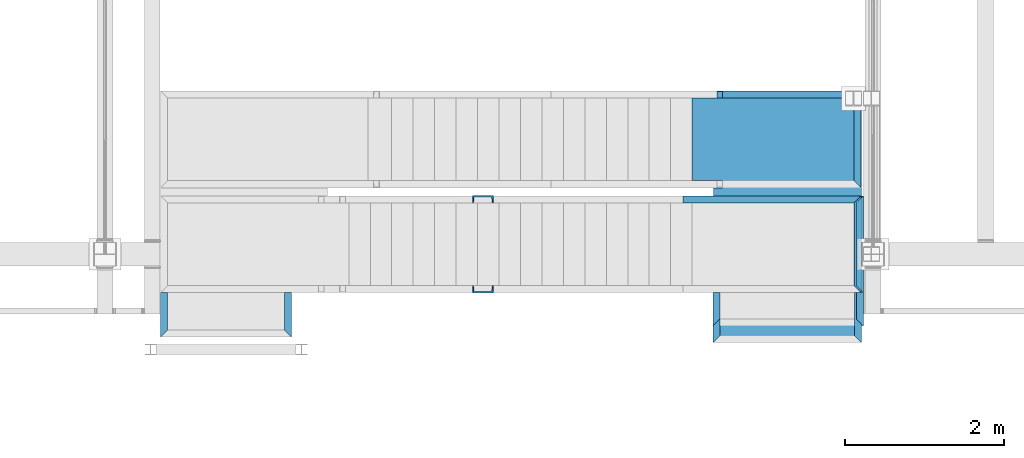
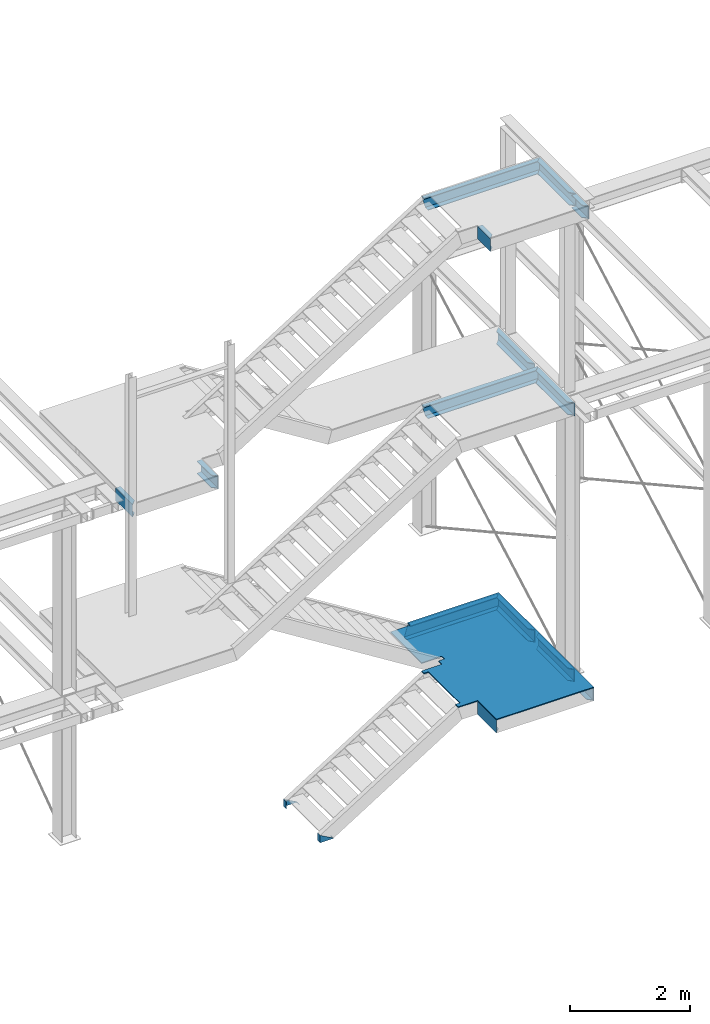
# One storey, part 24 of 24: 17 stairs.
"""IFC2X3 building model written with IfcOpenShell, lengths in metres."""

from ifc_helpers import new_model, entity, si_unit, converted_unit, derived_unit, frame, origin, place, context, subcontext, project, spatial, faceted_brep, material, element, save


model = new_model("IFC2X3")

# Units and contexts
model_context = context("Model", 3, precision=1e-05, world=origin())
body_context = subcontext(model_context, "Body", "Model", "MODEL_VIEW")
ifc_project = project(units=[si_unit("LENGTHUNIT", "METRE"), si_unit("AREAUNIT", "SQUARE_METRE"), si_unit("VOLUMEUNIT", "CUBIC_METRE"), si_unit("MASSUNIT", "GRAM", prefix="KILO"), converted_unit("PLANEANGLEUNIT", "DEGREE", entity("IfcPlaneAngleMeasure", 0.0174532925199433), si_unit("PLANEANGLEUNIT", "RADIAN"), dimensions=[0, 0, 0, 0, 0, 0, 0]), derived_unit("THERMALTRANSMITTANCEUNIT", [(si_unit("POWERUNIT", "WATT"), 1), (si_unit("THERMODYNAMICTEMPERATUREUNIT", "KELVIN"), -1), (si_unit("LENGTHUNIT", "METRE"), -2)]), derived_unit("VOLUMETRICFLOWRATEUNIT", [(si_unit("LENGTHUNIT", "METRE"), 3), (converted_unit("TIMEUNIT", "hour", entity("IfcTimeMeasure", 3600.0), si_unit("TIMEUNIT", "SECOND"), dimensions=[0, 0, 1, 0, 0, 0, 0]), -1), (si_unit("LENGTHUNIT", "METRE"), -1)])], contexts=[model_context])

# Site, building, storey
site_placement = place(None, origin())
site = spatial("IfcSite", under=ifc_project, at=site_placement, Name="TWP_Speiseverteilzentrum SBW VZ II", CompositionType="ELEMENT")
building_placement = place(site_placement, origin())
building = spatial("IfcBuilding", under=site, at=building_placement, Name="Speiseverteilzentrum SBW VZ II", CompositionType="ELEMENT")
storey_placement = place(building_placement, frame((0.0, 0.0, 0.6957)))
storey = spatial("IfcBuildingStorey", under=building, at=storey_placement, Name="EG_Technik_FFB", CompositionType="ELEMENT", Elevation=0.6957)

# Stairs
ifc_material_1 = material(Name="Stahl")
stair_1_placement = place(storey_placement, frame((67.6487049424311, 86.3610000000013, 0.751093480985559)))
element("IfcStair", 1, at=stair_1_placement, inside=storey, material=ifc_material_1, Name="Stahltreppe", ShapeType="NOTDEFINED", context=body_context, shape_type="Brep", body=[
    faceted_brep([(0.09, 0.0899999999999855, 0.0), (0.0, 0.0, 0.0), (0.0, 0.0, 0.26), (0.09, 0.0899999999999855, 0.26), (0.0899981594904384, 0.0899981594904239, 0.249199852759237), (0.01, 0.00999999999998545, 0.242798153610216), (0.010001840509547, 0.0100018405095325, 0.0171998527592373), (0.09, 0.0899999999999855, 0.0107981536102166), (0.09, 0.628999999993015, 0.0107981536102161), (0.010001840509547, 0.628999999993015, 0.0171998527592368), (0.01, 0.628999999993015, 0.242798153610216), (0.0899981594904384, 0.628999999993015, 0.249199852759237), (0.09, 0.628999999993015, 0.26), (0.0, 0.628999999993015, 0.26), (0.0, 0.628999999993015, 0.0), (0.09, 0.628999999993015, 0.0)], [[[0, 1, 2, 3, 4, 5, 6, 7]], [[8, 9, 10, 11, 12, 13, 14, 15]], [[7, 8, 15, 0]], [[0, 15, 14, 1]], [[2, 1, 14, 13]], [[2, 13, 12, 3]], [[3, 12, 11, 4]], [[4, 11, 10, 5]], [[5, 10, 9, 6]], [[6, 9, 8, 7]]], orient=[[False], [False], [False], [False], [False], [False], [False], [False], [False], [False]]),
])
ifc_material_2 = material(Name="Stahl")
stair_2_placement = place(storey_placement, frame((69.4287049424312, 86.3610000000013, 0.751093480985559)))
element("IfcStair", 2, at=stair_2_placement, inside=storey, material=ifc_material_2, Name="Stahltreppe", ShapeType="NOTDEFINED", context=body_context, shape_type="Brep", body=[
    faceted_brep([(0.0, 0.0899999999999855, 0.0), (0.0, 0.0899999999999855, 0.0107981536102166), (0.079998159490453, 0.0100018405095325, 0.0171998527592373), (0.08, 0.00999999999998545, 0.242798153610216), (1.84050956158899e-06, 0.0899981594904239, 0.249199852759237), (0.0, 0.0899999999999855, 0.26), (0.09, 0.0, 0.26), (0.09, 0.0, 0.0), (0.0, 0.628999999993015, 0.0107981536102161), (0.0, 0.628999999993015, 0.0), (0.09, 0.628999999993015, 0.0), (0.09, 0.628999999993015, 0.26), (0.0, 0.628999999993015, 0.26), (1.84050956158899e-06, 0.628999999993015, 0.249199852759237), (0.08, 0.628999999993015, 0.242798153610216), (0.079998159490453, 0.628999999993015, 0.0171998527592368)], [[[0, 1, 2, 3, 4, 5, 6, 7]], [[8, 9, 10, 11, 12, 13, 14, 15]], [[1, 0, 9, 8]], [[0, 7, 10, 9]], [[6, 11, 10, 7]], [[6, 5, 12, 11]], [[5, 4, 13, 12]], [[4, 3, 14, 13]], [[3, 2, 15, 14]], [[2, 1, 8, 15]]], orient=[[False], [False], [False], [False], [False], [False], [False], [False], [False], [False]]),
])
ifc_material_3 = material(Name="Stahl")
stair_3_placement = place(storey_placement, frame((67.698288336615, 89.4399999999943, 0.751093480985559)))
element("IfcStair", 3, at=stair_3_placement, inside=storey, material=ifc_material_3, Name="Stahltreppe", ShapeType="NOTDEFINED", context=body_context, shape_type="Brep", body=[
    faceted_brep([(1.73041660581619, 0.0, 0.0), (1.73041660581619, 0.0, 0.0107981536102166), (1.81041476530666, 0.079998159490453, 0.0171998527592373), (1.81041660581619, 0.08, 0.242798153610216), (1.73041844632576, 1.84050956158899e-06, 0.249199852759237), (1.73041660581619, 0.0, 0.26), (1.82041660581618, 0.09, 0.26), (1.82041660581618, 0.09, 0.0), (0.0, 0.0, 0.0), (0.00310374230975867, 0.0, 0.0107981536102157), (0.0, 0.09, 0.0), (0.0747324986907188, 0.09, 0.26), (0.0747324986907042, 0.0, 0.26), (0.0716281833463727, 1.84050956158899e-06, 0.249199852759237), (0.0697881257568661, 0.08, 0.242798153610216), (0.00494379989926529, 0.079998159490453, 0.0171998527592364)], [[[0, 1, 2, 3, 4, 5, 6, 7]], [[0, 8, 9, 1]], [[7, 10, 8, 0]], [[10, 7, 6, 11]], [[5, 12, 11, 6]], [[4, 13, 12, 5]], [[3, 14, 13, 4]], [[2, 15, 14, 3]], [[1, 9, 15, 2]], [[8, 10, 11, 12, 13, 14, 15, 9]]], orient=[[False], [False], [False], [False], [False], [False], [False], [False], [False], [False]]),
])
ifc_material_4 = material(Name="Stahl")
stair_4_placement = place(storey_placement, frame((69.4287049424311, 88.3099999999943, 0.751093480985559)))
element("IfcStair", 4, at=stair_4_placement, inside=storey, material=ifc_material_4, Name="Stahltreppe", ShapeType="NOTDEFINED", context=body_context, shape_type="Brep", body=[
    faceted_brep([(0.0900000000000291, 0.0, 0.26), (0.0900000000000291, 0.0, 0.0), (0.0, 0.09, 0.0), (0.0, 0.09, 0.0107981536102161), (0.0799981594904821, 0.0100018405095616, 0.0171998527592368), (0.0800000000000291, 0.01, 0.242798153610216), (1.84050959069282e-06, 0.0899981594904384, 0.249199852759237), (0.0, 0.09, 0.26), (0.0, 1.12999999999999, 0.0107981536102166), (0.0799981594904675, 1.20999815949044, 0.0171998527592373), (0.0800000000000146, 1.20999999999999, 0.242798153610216), (1.8405095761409e-06, 1.13000184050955, 0.249199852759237), (0.0, 1.12999999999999, 0.26), (0.0900000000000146, 1.21999999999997, 0.26), (0.0900000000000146, 1.21999999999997, 0.0), (0.0, 1.12999999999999, 0.0)], [[[0, 1, 2, 3, 4, 5, 6, 7]], [[3, 8, 9, 4]], [[4, 9, 10, 5]], [[5, 10, 11, 6]], [[6, 11, 12, 7]], [[7, 12, 13, 0]], [[13, 14, 1, 0]], [[1, 14, 15, 2]], [[2, 15, 8, 3]], [[15, 14, 13, 12, 11, 10, 9, 8]]], orient=[[False], [False], [False], [False], [False], [False], [False], [False], [False], [False]]),
])
ifc_material_5 = material(Name="Stahl")
stair_5_placement = place(storey_placement, frame((69.4287049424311, 86.9899981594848, 0.751093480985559)))
element("IfcStair", 5, at=stair_5_placement, inside=storey, material=ifc_material_5, Name="Stahltreppe", ShapeType="NOTDEFINED", context=body_context, shape_type="Brep", body=[
    faceted_brep([(0.0900000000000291, 0.0, 0.26), (0.0900000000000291, 0.0, 0.0), (0.0, 0.09, 0.0), (0.0, 0.09, 0.0107981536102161), (0.0799981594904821, 0.0100018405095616, 0.0171998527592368), (0.0800000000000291, 0.01, 0.242798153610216), (1.84050959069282e-06, 0.0899981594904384, 0.249199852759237), (0.0, 0.09, 0.26), (0.0, 1.12999999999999, 0.0107981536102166), (0.0799981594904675, 1.20999815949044, 0.0171998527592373), (0.0800000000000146, 1.20999999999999, 0.242798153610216), (1.8405095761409e-06, 1.13000184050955, 0.249199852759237), (0.0, 1.12999999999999, 0.26), (0.0900000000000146, 1.21999999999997, 0.26), (0.0900000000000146, 1.21999999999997, 0.0), (0.0, 1.12999999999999, 0.0)], [[[0, 1, 2, 3, 4, 5, 6, 7]], [[3, 8, 9, 4]], [[4, 9, 10, 5]], [[5, 10, 11, 6]], [[6, 11, 12, 7]], [[7, 12, 13, 0]], [[13, 14, 1, 0]], [[1, 14, 15, 2]], [[2, 15, 8, 3]], [[15, 14, 13, 12, 11, 10, 9, 8]]], orient=[[False], [False], [False], [False], [False], [False], [False], [False], [False], [False]]),
])
ifc_material_6 = material(Name="Stahl")
stair_6_placement = place(storey_placement, frame((60.7000017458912, 86.4299999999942, 7.51876823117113)))
element("IfcStair", 6, at=stair_6_placement, inside=storey, material=ifc_material_6, Name="Stahltreppe", ShapeType="NOTDEFINED", context=body_context, shape_type="Brep", body=[
    faceted_brep([(0.09, 0.09, 0.0), (0.0, 0.0, 0.0), (0.0, 0.0, 0.26), (0.09, 0.0900000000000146, 0.26), (0.0899981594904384, 0.0899981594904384, 0.249199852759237), (0.01, 0.01, 0.242798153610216), (0.010001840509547, 0.010001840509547, 0.0171998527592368), (0.09, 0.09, 0.0107981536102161), (0.0900000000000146, 0.560000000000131, 0.0107981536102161), (0.0100018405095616, 0.560000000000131, 0.0171998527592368), (0.0100000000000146, 0.560000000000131, 0.242798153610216), (0.089998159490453, 0.560000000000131, 0.249199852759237), (0.0900000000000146, 0.560000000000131, 0.26), (0.0, 0.560000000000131, 0.26), (0.0, 0.560000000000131, 0.0), (0.0900000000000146, 0.560000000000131, 0.0)], [[[0, 1, 2, 3, 4, 5, 6, 7]], [[8, 9, 10, 11, 12, 13, 14, 15]], [[7, 8, 15, 0]], [[0, 15, 14, 1]], [[2, 1, 14, 13]], [[2, 13, 12, 3]], [[3, 12, 11, 4]], [[4, 11, 10, 5]], [[5, 10, 9, 6]], [[6, 9, 8, 7]]], orient=[[False], [False], [False], [False], [False], [False], [False], [False], [False], [False]]),
])
ifc_material_7 = material(Name="Stahl")
stair_7_placement = place(storey_placement, frame((62.2600017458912, 86.4299999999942, 7.51876823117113)))
element("IfcStair", 7, at=stair_7_placement, inside=storey, material=ifc_material_7, Name="Stahltreppe", ShapeType="NOTDEFINED", context=body_context, shape_type="Brep", body=[
    faceted_brep([(0.0, 0.0900000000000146, 0.0107981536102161), (0.079998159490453, 0.0100018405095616, 0.0171998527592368), (0.08, 0.0100000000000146, 0.242798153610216), (1.84050956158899e-06, 0.089998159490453, 0.249199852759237), (0.0, 0.0900000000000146, 0.26), (0.09, 0.0, 0.26), (0.09, 0.0, 0.0), (0.0, 0.0900000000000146, 0.0), (0.0, 0.560000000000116, 0.0107981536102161), (0.0, 0.560000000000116, 0.0), (0.09, 0.560000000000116, 0.0), (0.09, 0.560000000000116, 0.26), (0.0, 0.560000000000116, 0.26), (1.84050956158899e-06, 0.560000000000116, 0.249199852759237), (0.08, 0.560000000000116, 0.242798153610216), (0.079998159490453, 0.560000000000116, 0.0171998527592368)], [[[0, 1, 2, 3, 4, 5, 6, 7]], [[8, 9, 10, 11, 12, 13, 14, 15]], [[7, 9, 8, 0]], [[6, 10, 9, 7]], [[5, 11, 10, 6]], [[4, 12, 11, 5]], [[3, 13, 12, 4]], [[2, 14, 13, 3]], [[1, 15, 14, 2]], [[0, 8, 15, 1]]], orient=[[False], [False], [False], [False], [False], [False], [False], [False], [False], [False]]),
])
ifc_material_8 = material(Name="Stahl")
stair_8_placement = place(storey_placement, frame((67.6487049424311, 86.5699999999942, 10.39503)))
element("IfcStair", 8, at=stair_8_placement, inside=storey, material=ifc_material_8, Name="Stahltreppe", ShapeType="NOTDEFINED", context=body_context, shape_type="Brep", body=[
    faceted_brep([(0.09, 0.0900000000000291, 0.0), (0.0, 0.0, 0.0), (0.0, 0.0, 0.26), (0.09, 0.0900000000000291, 0.26), (0.0899981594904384, 0.0899981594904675, 0.249199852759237), (0.01, 0.0100000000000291, 0.242798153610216), (0.0100018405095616, 0.0100018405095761, 0.0171998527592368), (0.09, 0.0900000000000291, 0.0107981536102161), (0.09, 0.420000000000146, 0.0107981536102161), (0.0100018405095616, 0.420000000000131, 0.0171998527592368), (0.01, 0.420000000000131, 0.242798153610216), (0.0899981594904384, 0.420000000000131, 0.249199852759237), (0.09, 0.420000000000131, 0.26), (0.0, 0.420000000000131, 0.26), (0.0, 0.420000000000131, 0.0), (0.09, 0.420000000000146, 0.0)], [[[0, 1, 2, 3, 4, 5, 6, 7]], [[8, 9, 10, 11, 12, 13, 14, 15]], [[7, 8, 15, 0]], [[0, 15, 14, 1]], [[2, 1, 14, 13]], [[2, 13, 12, 3]], [[3, 12, 11, 4]], [[4, 11, 10, 5]], [[5, 10, 9, 6]], [[6, 9, 8, 7]]], orient=[[False], [False], [False], [False], [False], [False], [False], [False], [False], [False]]),
])
ifc_material_9 = material(Name="Stahl")
stair_9_placement = place(storey_placement, frame((64.6252469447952, 86.9899999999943, -0.799700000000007)))
element("IfcStair", 9, at=stair_9_placement, inside=storey, material=ifc_material_9, Name="Stahltreppe", ShapeType="NOTDEFINED", context=body_context, shape_type="Brep", body=[
    faceted_brep([(0.249201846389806, 0.09, 0.0128161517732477), (0.260000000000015, 0.09, 0.00683959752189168), (0.260000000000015, 0.0, 0.00683959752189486), (0.0, 0.0, 0.150744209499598), (0.0, 0.09, 0.150744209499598), (0.0108001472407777, 0.0899981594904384, 0.144766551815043), (0.0172018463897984, 0.01, 0.141223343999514), (0.242800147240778, 0.0100018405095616, 0.0163593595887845), (0.0172018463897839, 0.01, 0.0), (0.242800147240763, 0.010001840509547, 0.0), (0.0108001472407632, 0.0899981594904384, 0.0), (0.0, 0.09, 0.0), (0.0, 0.0, 0.0), (0.26, 0.0, 0.0), (0.249201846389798, 0.09, 0.0), (0.260000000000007, 0.09, 0.0)], [[[0, 1, 2, 3, 4, 5, 6, 7]], [[6, 8, 9, 7]], [[5, 10, 8, 6]], [[4, 11, 10, 5]], [[3, 12, 11, 4]], [[2, 13, 12, 3]], [[7, 9, 14, 0]], [[1, 15, 13, 2]], [[0, 14, 15, 1]], [[14, 9, 8, 10, 11, 12, 13, 15]]], orient=[[False], [False], [False], [False], [False], [False], [False], [False], [False], [False]]),
])
ifc_material_10 = material(Name="Stahl")
stair_10_placement = place(storey_placement, frame((64.6252469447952, 88.1199999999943, -0.799700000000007)))
element("IfcStair", 10, at=stair_10_placement, inside=storey, material=ifc_material_10, Name="Stahltreppe", ShapeType="NOTDEFINED", context=body_context, shape_type="Brep", body=[
    faceted_brep([(0.24280014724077, 0.079998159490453, 0.0163593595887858), (0.0172018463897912, 0.08, 0.141223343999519), (0.0108001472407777, 1.84050956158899e-06, 0.144766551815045), (0.0, 0.0, 0.150744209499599), (0.0, 0.09, 0.150744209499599), (0.260000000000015, 0.09, 0.00683959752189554), (0.260000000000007, 0.0, 0.00683959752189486), (0.249201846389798, 0.0, 0.0128161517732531), (0.242800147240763, 0.079998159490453, 0.0), (0.0172018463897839, 0.08, 0.0), (0.0108001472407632, 1.84050956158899e-06, 0.0), (0.0, 0.0, 0.0), (0.0, 0.09, 0.0), (0.26, 0.09, 0.0), (0.249201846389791, 0.0, 0.0), (0.26, 0.0, 0.0)], [[[0, 1, 2, 3, 4, 5, 6, 7]], [[0, 8, 9, 1]], [[1, 9, 10, 2]], [[2, 10, 11, 3]], [[3, 11, 12, 4]], [[4, 12, 13, 5]], [[7, 14, 8, 0]], [[5, 13, 15, 6]], [[6, 15, 14, 7]], [[14, 15, 13, 12, 11, 10, 9, 8]]], orient=[[False], [False], [False], [False], [False], [False], [False], [False], [False], [False]]),
])
ifc_material_11 = material(Name="Stahl")
stair_11_placement = place(storey_placement, frame((69.4237031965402, 86.9899999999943, 6.15443313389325)))
element("IfcStair", 11, at=stair_11_placement, inside=storey, material=ifc_material_11, Name="Stahltreppe", ShapeType="NOTDEFINED", context=body_context, shape_type="Brep", body=[
    faceted_brep([(0.0, 1.13000000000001, 0.0107981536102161), (0.0, 1.13000000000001, 0.0), (0.09, 1.22, 0.0), (0.09, 1.22, 0.26), (0.0, 1.13000000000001, 0.26), (1.84050956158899e-06, 1.13000184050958, 0.249199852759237), (0.08, 1.21, 0.242798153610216), (0.079998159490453, 1.20999815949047, 0.0171998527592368), (0.079998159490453, 0.010001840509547, 0.0171998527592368), (0.0, 0.09, 0.0107981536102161), (0.08, 0.01, 0.242798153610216), (1.84050956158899e-06, 0.0899981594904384, 0.249199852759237), (0.0, 0.09, 0.26), (0.09, 0.0, 0.26), (0.09, 0.0, 0.0), (0.0, 0.09, 0.0)], [[[0, 1, 2, 3, 4, 5, 6, 7]], [[7, 8, 9, 0]], [[6, 10, 8, 7]], [[5, 11, 10, 6]], [[4, 12, 11, 5]], [[3, 13, 12, 4]], [[2, 14, 13, 3]], [[1, 15, 14, 2]], [[0, 9, 15, 1]], [[9, 8, 10, 11, 12, 13, 14, 15]]], orient=[[False], [False], [False], [False], [False], [False], [False], [False], [False], [False]]),
])
ifc_material_12 = material(Name="Stahl")
stair_12_placement = place(storey_placement, frame((69.4237031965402, 88.3099999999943, 6.15443313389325)))
element("IfcStair", 12, at=stair_12_placement, inside=storey, material=ifc_material_12, Name="Stahltreppe", ShapeType="NOTDEFINED", context=body_context, shape_type="Brep", body=[
    faceted_brep([(0.09, 1.22000000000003, 0.0), (0.09, 1.22000000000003, 0.26), (0.0, 1.13000000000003, 0.26), (1.84050956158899e-06, 1.13000184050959, 0.249199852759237), (0.08, 1.21000000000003, 0.242798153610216), (0.079998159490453, 1.20999815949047, 0.0171998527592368), (0.0, 1.13000000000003, 0.0107981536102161), (0.0, 1.13000000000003, 0.0), (0.0, 0.09, 0.0107981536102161), (0.0, 0.09, 0.0), (0.09, 0.0, 0.0), (0.09, 0.0, 0.26), (0.0, 0.09, 0.26), (1.84050956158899e-06, 0.0899981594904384, 0.249199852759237), (0.08, 0.00999999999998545, 0.242798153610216), (0.079998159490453, 0.010001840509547, 0.0171998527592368)], [[[0, 1, 2, 3, 4, 5, 6, 7]], [[6, 8, 9, 7]], [[7, 9, 10, 0]], [[11, 1, 0, 10]], [[1, 11, 12, 2]], [[2, 12, 13, 3]], [[3, 13, 14, 4]], [[4, 14, 15, 5]], [[5, 15, 8, 6]], [[8, 15, 14, 13, 12, 11, 10, 9]]], orient=[[False], [False], [False], [False], [False], [False], [False], [False], [False], [False]]),
])
ifc_material_13 = material(Name="Stahl")
stair_13_placement = place(storey_placement, frame((67.2743890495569, 88.1199999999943, 6.16523328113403)))
element("IfcStair", 13, at=stair_13_placement, inside=storey, material=ifc_material_13, Name="Stahltreppe", ShapeType="NOTDEFINED", context=body_context, shape_type="Brep", body=[
    faceted_brep([(2.14931414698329, 0.0, 0.0), (2.14931414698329, 0.0, 0.010798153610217), (2.22931230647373, 0.0799981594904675, 0.0171998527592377), (2.22931414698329, 0.0800000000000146, 0.242798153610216), (2.14931598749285, 1.8405095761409e-06, 0.249199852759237), (2.14931414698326, 0.0, 0.26), (2.23931414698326, 0.0900000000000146, 0.26), (2.23931414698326, 0.0900000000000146, 0.0), (0.0747324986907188, 0.0, 0.0), (0.0716287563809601, 0.0, 0.0107981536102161), (0.0747324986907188, 0.0900000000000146, 0.0), (0.0, 0.0900000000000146, 0.26), (0.0, 0.0, 0.26), (0.00310431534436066, 1.8405095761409e-06, 0.249199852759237), (0.00494437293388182, 0.0800000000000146, 0.242798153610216), (0.069788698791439, 0.0799981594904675, 0.0171998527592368)], [[[0, 1, 2, 3, 4, 5, 6, 7]], [[0, 8, 9, 1]], [[7, 10, 8, 0]], [[10, 7, 6, 11]], [[5, 12, 11, 6]], [[4, 13, 12, 5]], [[3, 14, 13, 4]], [[2, 15, 14, 3]], [[1, 9, 15, 2]], [[8, 10, 11, 12, 13, 14, 15, 9]]], orient=[[False], [False], [False], [False], [False], [False], [False], [False], [False], [False]]),
])
ifc_material_14 = material(Name="Stahl")
stair_14_placement = place(storey_placement, frame((69.4537031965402, 86.5699999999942, 10.39503)))
element("IfcStair", 14, at=stair_14_placement, inside=storey, material=ifc_material_14, Name="Stahltreppe", ShapeType="NOTDEFINED", context=body_context, shape_type="Brep", body=[
    faceted_brep([(0.0, 0.09, 0.0107981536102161), (0.0799981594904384, 0.010001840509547, 0.0171998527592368), (0.08, 0.01, 0.242798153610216), (1.84050956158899e-06, 0.0899981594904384, 0.249199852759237), (0.0, 0.09, 0.26), (0.09, 0.0, 0.26), (0.09, 0.0, 0.0), (0.0, 0.09, 0.0), (0.0, 0.420000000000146, 0.0107981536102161), (0.0, 0.420000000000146, 0.0), (0.09, 0.420000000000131, 0.0), (0.09, 0.420000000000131, 0.26), (0.0, 0.420000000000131, 0.26), (1.84050956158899e-06, 0.420000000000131, 0.249199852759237), (0.08, 0.420000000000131, 0.242798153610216), (0.0799981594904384, 0.420000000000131, 0.0171998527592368)], [[[0, 1, 2, 3, 4, 5, 6, 7]], [[8, 9, 10, 11, 12, 13, 14, 15]], [[7, 9, 8, 0]], [[6, 10, 9, 7]], [[5, 11, 10, 6]], [[4, 12, 11, 5]], [[3, 13, 12, 4]], [[2, 14, 13, 3]], [[1, 15, 14, 2]], [[0, 8, 15, 1]]], orient=[[False], [False], [False], [False], [False], [False], [False], [False], [False], [False]]),
])
ifc_material_15 = material(Name="Stahl")
stair_15_placement = place(storey_placement, frame((67.2743890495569, 88.1199999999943, 10.39503)))
element("IfcStair", 15, at=stair_15_placement, inside=storey, material=ifc_material_15, Name="Stahltreppe", ShapeType="NOTDEFINED", context=body_context, shape_type="Brep", body=[
    faceted_brep([(2.26931414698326, 0.09, 0.0), (2.17931414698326, 0.0, 0.0), (2.17931414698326, 0.0, 0.0107981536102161), (2.25931230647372, 0.079998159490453, 0.0171998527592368), (2.25931414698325, 0.08, 0.242798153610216), (2.17931598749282, 1.84050956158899e-06, 0.249199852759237), (2.17931414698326, 0.0, 0.26), (2.26931414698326, 0.09, 0.26), (0.0747324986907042, 0.0, 0.0), (0.0716287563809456, 0.0, 0.0107981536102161), (0.0747324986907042, 0.09, 0.0), (0.0, 0.09, 0.26), (0.0, 0.0, 0.26), (0.00310431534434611, 1.84050956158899e-06, 0.249199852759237), (0.00494437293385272, 0.08, 0.242798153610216), (0.0697886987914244, 0.079998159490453, 0.0171998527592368)], [[[0, 1, 2, 3, 4, 5, 6, 7]], [[2, 1, 8, 9]], [[1, 0, 10, 8]], [[11, 10, 0, 7]], [[7, 6, 12, 11]], [[6, 5, 13, 12]], [[5, 4, 14, 13]], [[4, 3, 15, 14]], [[3, 2, 9, 15]], [[9, 8, 10, 11, 12, 13, 14, 15]]], orient=[[False], [False], [False], [False], [False], [False], [False], [False], [False], [False]]),
])
ifc_material_16 = material(Name="Stahl")
stair_16_placement = place(storey_placement, frame((69.4537031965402, 86.9899999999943, 10.39503)))
element("IfcStair", 16, at=stair_16_placement, inside=storey, material=ifc_material_16, Name="Stahltreppe", ShapeType="NOTDEFINED", context=body_context, shape_type="Brep", body=[
    faceted_brep([(0.0, 1.13000000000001, 0.0107981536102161), (0.0, 1.13000000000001, 0.0), (0.09, 1.22000000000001, 0.0), (0.09, 1.22000000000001, 0.26), (0.0, 1.13000000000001, 0.26), (1.84050956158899e-06, 1.13000184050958, 0.249199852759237), (0.08, 1.21000000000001, 0.242798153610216), (0.0799981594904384, 1.20999815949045, 0.0171998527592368), (0.0799981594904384, 0.010001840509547, 0.0171998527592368), (0.0, 0.09, 0.0107981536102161), (0.08, 0.01, 0.242798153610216), (1.84050956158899e-06, 0.0899981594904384, 0.249199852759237), (0.0, 0.09, 0.26), (0.09, 0.0, 0.26), (0.09, 0.0, 0.0), (0.0, 0.09, 0.0)], [[[0, 1, 2, 3, 4, 5, 6, 7]], [[7, 8, 9, 0]], [[6, 10, 8, 7]], [[5, 11, 10, 6]], [[4, 12, 11, 5]], [[3, 13, 12, 4]], [[2, 14, 13, 3]], [[1, 15, 14, 2]], [[0, 9, 15, 1]], [[9, 8, 10, 11, 12, 13, 14, 15]]], orient=[[False], [False], [False], [False], [False], [False], [False], [False], [False], [False]]),
])
ifc_material_17 = material(Name="Stahl")
stair_17_placement = place(storey_placement, frame((67.2743890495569, 86.3610000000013, 1.01109348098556)))
element("IfcStair", 17, at=stair_17_placement, inside=storey, material=ifc_material_17, Name="Stahltreppe", ShapeType="NOTDEFINED", context=body_context, shape_type="Brep", body=[
    faceted_brep([(2.24431589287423, 3.16899999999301, 0.0), (0.498631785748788, 3.16899999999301, 0.0), (0.498631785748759, 3.07899999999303, 0.0), (0.114315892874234, 3.07899999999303, 0.0), (0.114315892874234, 2.03899999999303, 0.0), (0.498631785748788, 2.03899999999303, 0.0), (0.498631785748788, 1.94899999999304, 0.0), (0.384315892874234, 1.94899999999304, 0.0), (0.384315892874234, 1.83899999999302, 0.0), (0.0, 1.83899999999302, 0.0), (0.0, 1.75899999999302, 0.0), (0.0843158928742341, 1.75899999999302, 0.0), (0.0843158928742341, 0.718998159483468, 0.0), (0.0, 0.718998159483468, 0.0), (0.0, 0.62899999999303, 0.0), (0.374315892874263, 0.62899999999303, 0.0), (0.374315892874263, 0.0, 0.0), (2.24431589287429, 0.0, 0.0), (0.498631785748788, 3.16899999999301, 0.02), (2.24431589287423, 3.16899999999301, 0.02), (2.24431589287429, 0.0, 0.02), (0.374315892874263, 0.0, 0.02), (0.374315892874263, 0.62899999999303, 0.02), (0.0, 0.62899999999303, 0.02), (0.0, 0.718998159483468, 0.02), (0.0843158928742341, 0.718998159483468, 0.02), (0.0843158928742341, 1.75899999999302, 0.02), (0.0, 1.75899999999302, 0.02), (0.0, 1.83899999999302, 0.02), (0.384315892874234, 1.83899999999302, 0.02), (0.384315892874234, 1.94899999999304, 0.02), (0.498631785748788, 1.94899999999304, 0.02), (0.498631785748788, 2.03899999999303, 0.02), (0.114315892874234, 2.03899999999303, 0.02), (0.114315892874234, 3.07899999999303, 0.02), (0.498631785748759, 3.07899999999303, 0.02)], [[[0, 1, 2, 3, 4, 5, 6, 7, 8, 9, 10, 11, 12, 13, 14, 15, 16, 17]], [[18, 19, 20, 21, 22, 23, 24, 25, 26, 27, 28, 29, 30, 31, 32, 33, 34, 35]], [[1, 0, 19, 18]], [[2, 1, 18, 35]], [[3, 2, 35, 34]], [[4, 3, 34, 33]], [[5, 4, 33, 32]], [[6, 5, 32, 31]], [[7, 6, 31, 30]], [[8, 7, 30, 29]], [[9, 8, 29, 28]], [[10, 9, 28, 27]], [[11, 10, 27, 26]], [[12, 11, 26, 25]], [[13, 12, 25, 24]], [[14, 13, 24, 23]], [[15, 14, 23, 22]], [[16, 15, 22, 21]], [[17, 16, 21, 20]], [[0, 17, 20, 19]]], orient=[[False], [False], [False], [False], [False], [False], [False], [False], [False], [False], [False], [False], [False], [False], [False], [False], [False], [False], [False], [False]]),
])

save(model, "model.ifc")
